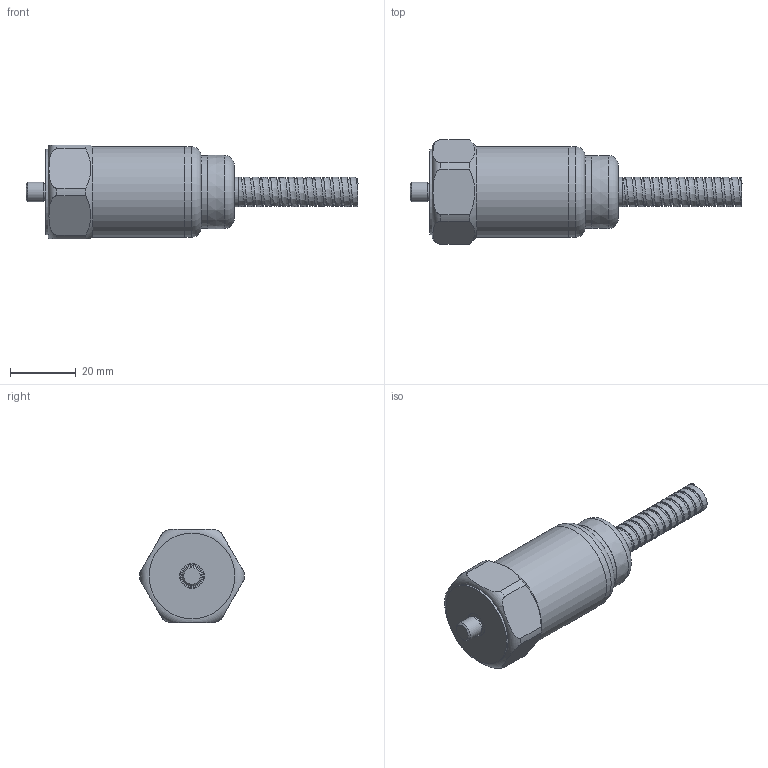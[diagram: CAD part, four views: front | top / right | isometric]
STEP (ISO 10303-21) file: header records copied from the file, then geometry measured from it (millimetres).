
FILE_DESCRIPTION(/* description */ (''),/* implementation_level */ '2;1');
FILE_NAME(/* name */ 'Z:\Engineering\Drawings\3D Library\Assemblies\Website\420 Velocity Top\HS-420XXX30C06.stp',/* time_stamp */ '2023-05-03T15:08:48+01:00',/* author */ ('Ricardo.Peneda'),/* organization */ (''),/* preprocessor_version */ 'ST-DEVELOPER v18.1',/* originating_system */ 'Autodesk Inventor 2021',/* authorisation */ '');
FILE_SCHEMA (('AUTOMOTIVE_DESIGN { 1 0 10303 214 3 1 1 }'));
Length unit declared in the file: inch
Products named in the file (1): HS-420XXX30C06_Shrinkwrap_1
Bounding box: 100.8 x 31.69 x 28.5 mm (x, y, z)
Volume: 14418.2 mm3; surface area: 14904.2 mm2
Topology: 5 solids, 5 shells, 89 faces, 238 edges, 168 vertices
Faces by surface type: cone 29, plane 26, cylinder 22, bspline 8, torus 4
Full cylindrical faces by diameter (mm): 5 x2, 6 x1, 6.3 x1, 6.35 x1, 7 x1, 7.5 x1, 9 x1, 20 x1, 22 x1, 23.3 x1, 25.3 x2, 26 x1, 27.5 x2
Entity records: 17114 total; most frequent: CARTESIAN_POINT 14660, DIRECTION 512, ORIENTED_EDGE 476, EDGE_CURVE 238, AXIS2_PLACEMENT_3D 222, VERTEX_POINT 168, CIRCLE 140, EDGE_LOOP 102
